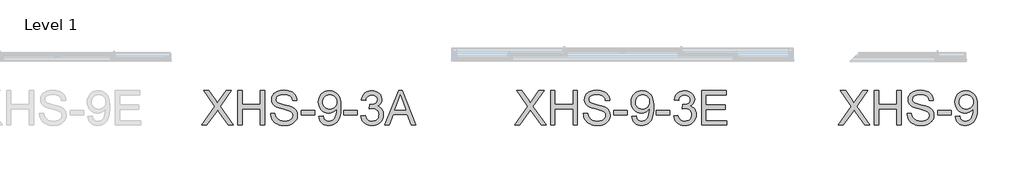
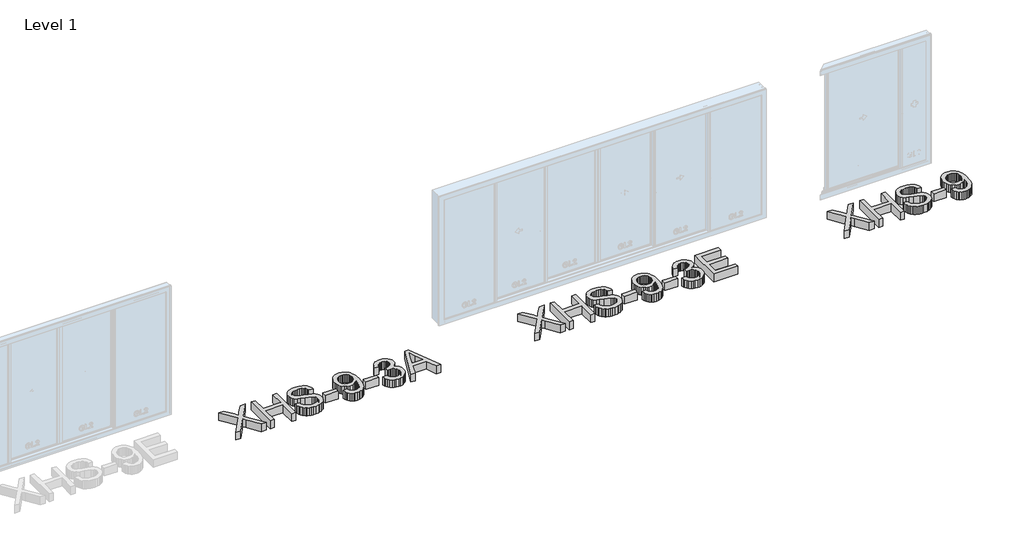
# One storey, part 2 of 2: 3 proxies.
"""IFC4 building model written with IfcOpenShell, lengths in millimetres."""

from ifc_helpers import new_model, si_unit, origin, origin_with_axes, place, context, project, spatial, polyline, outline, extrude, element, save

model = new_model("IFC4")

# Units and contexts
model_context = context("Model", 3, world=origin())
ifc_project = project(units=[si_unit("LENGTHUNIT", "METRE", prefix="MILLI")], contexts=[model_context])

# Site, building, storey
site = spatial("IfcSite", under=ifc_project)
building = spatial("IfcBuilding", under=site)
storey = spatial("IfcBuildingStorey", under=building, Name="Level 1", Elevation=0.0)

# Proxies
placement = place(None, origin())
element("IfcBuildingElementProxy", 1, Name="600mm Arial", ObjectType="600mm Arial", at=placement, inside=storey, context=model_context, shape_type="SweptSolid", body=[
    extrude(outline(polyline([(-296.8674857, -2254.2839532), (-64.6603704, -1925.838908), (-259.1963694, -1651.5460923), (-168.9917042, -1651.5460923), (-59.3628696, -1806.0565303), (-33.1328834, -1845.08881), (-22.4275173, -1866.2420247), (20.8354053, -1804.7321551), (129.2870175, -1651.5460923), (221.1103635, -1651.5460923), (26.4272116, -1926.8689775), (258.7814798, -2254.2839532), (168.4296618, -2254.2839532), (13.4777654, -2036.0563537), (-18.7486974, -1990.8804447), (-53.9182161, -2040.4709377), (-205.0441397, -2254.2839532), (-296.8674857, -2254.2839532)])), origin_with_axes(), (0.0, 0.0, 1.0), 150.0),
    extrude(outline(polyline([(334.1237124, -2254.2839532), (334.1237124, -1651.5460923), (409.465945, -1651.5460923), (409.465945, -1896.4083483), (729.6704336, -1896.4083483), (729.6704336, -1651.5460923), (805.0126662, -1651.5460923), (805.0126662, -2254.2839532), (729.6704336, -2254.2839532), (729.6704336, -1971.750581), (409.465945, -1971.750581), (409.465945, -2254.2839532), (334.1237124, -2254.2839532)])), origin_with_axes(), (0.0, 0.0, 1.0), 150.0),
    extrude(outline(polyline([(908.6082361, -2047.0928136), (983.9504687, -2047.0928136), (992.5956956, -2088.9026023), (1008.2306804, -2122.5086226), (1032.6212566, -2149.1800672), (1067.533258, -2170.1861292), (1110.2075694, -2183.8161571), (1157.885076, -2188.3594997), (1199.8604117, -2184.9198031), (1236.611823, -2174.6007131), (1266.3918705, -2158.2667525), (1287.4531147, -2136.782444), (1299.9794966, -2112.1159562), (1304.1549573, -2086.2354579), (1301.0279603, -2061.0171471), (1291.6469694, -2039.2201389), (1272.5906821, -2020.623704), (1240.4377957, -2005.0071133), (1130.7353848, -1976.2387413), (1058.7224842, -1957.200848), (1012.6452643, -1939.0826598), (975.1396949, -1913.7355903), (948.5602207, -1883.0174437), (932.7229009, -1847.5904076), (927.4437942, -1808.1166695), (929.0762706, -1785.6804663), (933.9736996, -1763.9892242), (942.1360814, -1743.0429431), (953.5634159, -1722.841623), (968.1269444, -1704.2084), (985.6979082, -1687.9664099), (1006.2763073, -1674.1156528), (1029.8621417, -1662.6561286), (1082.8739372, -1647.2602671), (1141.5511154, -1642.1283133), (1205.1211242, -1647.4993904), (1260.7448819, -1663.6126218), (1285.0802758, -1675.6147719), (1306.4358257, -1690.1369136), (1324.8115313, -1707.1790471), (1340.2073928, -1726.7411722), (1352.5038485, -1748.2530718), (1361.5813367, -1771.144529), (1367.4398575, -1795.4155436), (1370.0794108, -1821.0661157), (1294.7371782, -1821.0661157), (1289.6971949, -1797.0250273), (1280.9048152, -1776.1109359), (1268.3600392, -1758.3238415), (1252.0628668, -1743.6637439), (1231.7097954, -1732.2042198), (1206.9973224, -1724.0188454), (1177.9254477, -1719.1076208), (1144.4941714, -1717.4705459), (1109.9960373, -1719.0892267), (1080.5194924, -1723.945269), (1056.0645368, -1732.0386729), (1036.6311704, -1743.3694383), (1021.8239201, -1756.9902692), (1011.2473127, -1771.9538694), (1004.9013483, -1788.2602388), (1002.7860268, -1805.9093775), (1004.285146, -1821.0937069), (1008.7825034, -1834.8616905), (1016.278099, -1847.2133285), (1026.7719329, -1858.1486208), (1043.2898345, -1868.504499), (1069.2990916, -1878.9707418), (1149.7916721, -1900.2343211), (1232.8594266, -1920.4310426), (1283.1121072, -1938.0525902), (1326.0623301, -1965.3862224), (1342.6676037, -1981.4534686), (1356.0263186, -1999.1210014), (1366.2948248, -2018.2968504), (1373.6294721, -2038.8890451), (1379.4971899, -2084.3224715), (1377.8095312, -2107.8899118), (1372.7465553, -2130.7675734), (1364.308262, -2152.9554562), (1352.4946514, -2174.4535603), (1337.5126572, -2194.4295526), (1319.5692129, -2212.0511002), (1298.6643185, -2227.318203), (1274.7979741, -2240.230861), (1248.6645568, -2250.4993672), (1220.9584441, -2257.8340145), (1160.828132, -2263.7017323), (1122.2878944, -2262.1198397), (1087.0126096, -2257.374162), (1055.0022775, -2249.4646991), (1026.2568981, -2238.3914511), (1000.6017275, -2224.1360237), (977.8620217, -2206.6800231), (958.0377806, -2186.023449), (941.1290044, -2162.1663017), (927.5081736, -2135.8811331), (917.5477686, -2107.9404956), (911.2477894, -2078.3443891), (908.6082361, -2047.0928136)])), origin_with_axes(), (0.0, 0.0, 1.0), 150.0),
    extrude(outline(polyline([(1445.4216434, -2075.3461508), (1445.4216434, -2000.0039182), (1680.8661203, -2000.0039182), (1680.8661203, -2075.3461508), (1445.4216434, -2075.3461508)])), origin_with_axes(), (0.0, 0.0, 1.0), 150.0),
    extrude(outline(polyline([(1756.208353, -2103.599488), (1831.5505856, -2094.1817089), (1844.4264554, -2136.9479909), (1853.8994168, -2153.2129736), (1865.3957291, -2166.0658508), (1878.7866337, -2175.8193222), (1893.943372, -2182.7860875), (1929.5543491, -2188.3594997), (1961.5049004, -2184.7726503), (1990.5491839, -2174.0121019), (2014.6822428, -2157.255077), (2031.8991201, -2135.678798), (2044.9405369, -2107.3150962), (2056.5472138, -2070.1958029), (2064.7141941, -2027.5950678), (2067.4365209, -1982.7870408), (2066.9950625, -1968.071761), (2040.8938349, -1999.9303418), (2006.7359917, -2025.1670467), (1966.9863421, -2041.6113718), (1924.1096956, -2047.0928136), (1888.3193759, -2043.7450874), (1855.407733, -2033.7019089), (1825.3747666, -2016.9632782), (1798.2204768, -1993.5291951), (1775.7198943, -1964.6228673), (1759.6480496, -1931.4675025), (1750.0049428, -1894.0631006), (1746.7905739, -1852.4096617), (1750.1612927, -1809.3674683), (1760.273449, -1770.7398588), (1777.1270429, -1736.5268332), (1800.7220744, -1706.7283916), (1829.3938774, -1682.5861357), (1861.4777859, -1665.3416672), (1896.9737999, -1654.9949861), (1935.8819194, -1651.5460923), (1964.6089047, -1653.514261), (1992.0758942, -1659.418767), (2018.2828878, -1669.2596104), (2043.2298856, -1683.0367911), (2066.0845545, -1700.4560036), (2086.0145616, -1721.2229422), (2103.0199069, -1745.337607), (2117.1005902, -1772.799998), (2128.1416486, -1805.1920076), (2136.0281189, -1844.0955286), (2140.760001, -1889.5105609), (2142.3372951, -1941.4371045), (2140.7645996, -1995.9710118), (2136.046513, -2044.6463983), (2128.1830353, -2087.463264), (2117.1741666, -2124.421609), (2103.0612936, -2156.422744), (2085.8858029, -2184.3679801), (2065.6476947, -2208.2573171), (2042.3469688, -2228.0907552), (2016.4526749, -2243.6705577), (1988.4338624, -2254.798988), (1958.2905314, -2261.4760463), (1926.0226819, -2263.7017323), (1892.1867354, -2261.0759746), (1861.6065446, -2253.1987014), (1834.2821094, -2240.0699127), (1810.2134298, -2221.6896085), (1790.0075113, -2198.5544295), (1774.2713589, -2171.1610164), (1763.0049728, -2139.5093693), (1756.208353, -2103.599488)]), holes=[polyline([(2066.9950625, -1850.6438281), (2064.9625145, -1823.6412897), (2058.8648704, -1799.5818072), (2048.7021303, -1778.4653807), (2034.4742941, -1760.2920101), (2016.8803377, -1745.6778979), (1996.6192368, -1735.2392463), (1973.6909915, -1728.9760553), (1948.0956016, -1726.888325), (1921.6816744, -1729.1370037), (1897.7693447, -1735.8830397), (1876.3586126, -1747.1264332), (1857.449478, -1762.8671841), (1841.9984342, -1782.1855874), (1830.9619744, -1804.161938), (1824.3400985, -1828.7962362), (1822.1328065, -1856.0884817), (1824.2205368, -1880.5664299), (1830.4837278, -1902.6439482), (1840.9223794, -1922.3210364), (1855.5364917, -1939.5976946), (1873.7190593, -1953.6645824), (1894.8630769, -1963.7123594), (1918.9685447, -1969.7410256), (1946.0354625, -1971.750581), (1971.2767659, -1969.7410256), (1994.1728215, -1963.7123594), (2014.7236295, -1953.6645824), (2032.9291897, -1939.5976946), (2047.8330091, -1921.9807455), (2058.4785943, -1901.2827848), (2064.8659454, -1877.5038123), (2066.9950625, -1850.6438281)])]), origin_with_axes(), (0.0, 0.0, 1.0), 150.0),
    extrude(outline(polyline([(2189.4261905, -2075.3461508), (2189.4261905, -2000.0039182), (2424.8706674, -2000.0039182), (2424.8706674, -2075.3461508), (2189.4261905, -2075.3461508)])), origin_with_axes(), (0.0, 0.0, 1.0), 150.0),
    extrude(outline(polyline([(2490.7951209, -2094.1817089), (2566.1373535, -2084.7639299), (2583.004743, -2132.1103426), (2594.3768952, -2150.0169988), (2607.708019, -2164.079288), (2623.3016171, -2174.7018806), (2641.4611921, -2182.2894468), (2662.186744, -2186.8419865), (2685.4782728, -2188.3594997), (2712.7751168, -2186.2717694), (2737.1289049, -2180.0085784), (2758.539637, -2169.5699268), (2777.0073132, -2154.9558145), (2791.8789428, -2137.2606906), (2802.5015354, -2117.5790038), (2808.875091, -2095.9107543), (2810.9996095, -2072.255942), (2808.8934851, -2049.7277684), (2802.5751118, -2029.2321427), (2792.0444897, -2010.7690651), (2777.3016188, -1994.3385355), (2759.3121892, -1980.8510618), (2739.0418913, -1971.2171521), (2716.490725, -1965.4368062), (2691.6586903, -1963.5100243), (2667.8567252, -1965.5701634), (2638.8308358, -1971.750581), (2647.2185453, -1896.4083483), (2659.2850747, -1897.2912651), (2704.4241955, -1891.8833998), (2744.7808504, -1875.6598038), (2761.3907225, -1863.3909393), (2773.2549168, -1848.215807), (2780.3734334, -1830.1344069), (2782.7462723, -1809.1467391), (2781.026424, -1792.1092042), (2775.866879, -1776.6075766), (2767.2676374, -1762.6418564), (2755.2286991, -1750.2120435), (2740.4766311, -1740.0079166), (2723.7380003, -1732.7192546), (2684.3010504, -1726.888325), (2663.6444764, -1728.3598529), (2644.7905241, -1732.7744369), (2627.7391936, -1740.1320768), (2612.4904849, -1750.4327727), (2599.4214771, -1763.6765245), (2588.909249, -1779.8633323), (2580.9538009, -1798.993196), (2575.5551326, -1821.0661157), (2500.2129, -1811.6483367), (2509.1432354, -1775.6786746), (2522.3961843, -1743.9948377), (2539.9717466, -1716.5968261), (2561.8699224, -1693.4846398), (2587.4009329, -1675.1365253), (2615.8749993, -1662.0307292), (2647.2921217, -1654.1672516), (2681.6523, -1651.5460923), (2729.0171069, -1656.7148344), (2772.5191528, -1672.2210605), (2809.1969878, -1696.6852132), (2836.0891616, -1728.7277349), (2852.5886691, -1765.6446932), (2858.0885049, -1804.7321551), (2852.8645806, -1841.1524727), (2837.1928076, -1874.1882758), (2811.2939151, -1902.3312485), (2775.3886324, -1924.0730744), (2800.4965786, -1931.927355), (2822.5511042, -1943.1293617), (2841.5522092, -1957.6790946), (2857.4998937, -1975.5765537), (2870.1182462, -1996.3802805), (2879.131355, -2019.6488167), (2884.5392204, -2045.3821623), (2886.3418421, -2073.5803172), (2882.7365986, -2111.8032565), (2871.9208679, -2147.0095635), (2853.8946502, -2179.199238), (2828.6579453, -2208.3722802), (2797.9122075, -2232.5789155), (2763.3588912, -2249.8693693), (2724.9979961, -2260.2436416), (2682.8295224, -2263.7017323), (2644.7169477, -2260.7494793), (2609.9888874, -2251.8927203), (2578.6453414, -2237.1314552), (2550.6863097, -2216.4656841), (2527.2430296, -2191.1094176), (2509.4467381, -2162.2766663), (2497.2974352, -2129.96743), (2490.7951209, -2094.1817089)])), origin_with_axes(), (0.0, 0.0, 1.0), 150.0),
    extrude(outline(polyline([(2910.474901, -2254.2839532), (3151.0697259, -1651.5460923), (3215.2283458, -1651.5460923), (3455.6760179, -2254.2839532), (3376.0663541, -2254.2839532), (3307.1988446, -2065.9283717), (3058.8049215, -2065.9283717), (2989.937412, -2254.2839532), (2910.474901, -2254.2839532)]), holes=[polyline([(3086.4696475, -1990.5861391), (3279.6812714, -1990.5861391), (3225.2347361, -1842.4032714), (3183.0018831, -1726.888325), (3145.4779195, -1829.4538252), (3086.4696475, -1990.5861391)])]), origin_with_axes(), (0.0, 0.0, 1.0), 150.0),
])
element("IfcBuildingElementProxy", 2, Name="600mm Arial", ObjectType="600mm Arial", at=placement, inside=storey, context=model_context, shape_type="SweptSolid", body=[
    extrude(outline(polyline([(5183.1325143, -2254.2839532), (5415.3396296, -1925.838908), (5220.8036306, -1651.5460923), (5311.0082958, -1651.5460923), (5420.6371304, -1806.0565303), (5446.8671166, -1845.08881), (5457.5724827, -1866.2420247), (5500.8354053, -1804.7321551), (5609.2870175, -1651.5460923), (5701.1103635, -1651.5460923), (5506.4272116, -1926.8689775), (5738.7814798, -2254.2839532), (5648.4296618, -2254.2839532), (5493.4777654, -2036.0563537), (5461.2513026, -1990.8804447), (5426.0817839, -2040.4709377), (5274.9558603, -2254.2839532), (5183.1325143, -2254.2839532)])), origin_with_axes(), (0.0, 0.0, 1.0), 150.0),
    extrude(outline(polyline([(5814.1237124, -2254.2839532), (5814.1237124, -1651.5460923), (5889.465945, -1651.5460923), (5889.465945, -1896.4083483), (6209.6704336, -1896.4083483), (6209.6704336, -1651.5460923), (6285.0126662, -1651.5460923), (6285.0126662, -2254.2839532), (6209.6704336, -2254.2839532), (6209.6704336, -1971.750581), (5889.465945, -1971.750581), (5889.465945, -2254.2839532), (5814.1237124, -2254.2839532)])), origin_with_axes(), (0.0, 0.0, 1.0), 150.0),
    extrude(outline(polyline([(6388.6082361, -2047.0928136), (6463.9504687, -2047.0928136), (6472.5956956, -2088.9026023), (6488.2306804, -2122.5086226), (6512.6212566, -2149.1800672), (6547.533258, -2170.1861292), (6590.2075694, -2183.8161571), (6637.885076, -2188.3594997), (6679.8604117, -2184.9198031), (6716.611823, -2174.6007131), (6746.3918705, -2158.2667525), (6767.4531147, -2136.782444), (6779.9794966, -2112.1159562), (6784.1549573, -2086.2354579), (6781.0279603, -2061.0171471), (6771.6469694, -2039.2201389), (6752.5906821, -2020.623704), (6720.4377957, -2005.0071133), (6610.7353848, -1976.2387413), (6538.7224842, -1957.200848), (6492.6452643, -1939.0826598), (6455.1396949, -1913.7355903), (6428.5602207, -1883.0174437), (6412.7229009, -1847.5904076), (6407.4437942, -1808.1166695), (6409.0762706, -1785.6804663), (6413.9736996, -1763.9892242), (6422.1360814, -1743.0429431), (6433.5634159, -1722.841623), (6448.1269444, -1704.2084), (6465.6979082, -1687.9664099), (6486.2763073, -1674.1156528), (6509.8621417, -1662.6561286), (6562.8739372, -1647.2602671), (6621.5511154, -1642.1283133), (6685.1211242, -1647.4993904), (6740.7448819, -1663.6126218), (6765.0802758, -1675.6147719), (6786.4358257, -1690.1369136), (6804.8115313, -1707.1790471), (6820.2073928, -1726.7411722), (6832.5038485, -1748.2530718), (6841.5813367, -1771.144529), (6847.4398575, -1795.4155436), (6850.0794108, -1821.0661157), (6774.7371782, -1821.0661157), (6769.6971949, -1797.0250273), (6760.9048152, -1776.1109359), (6748.3600392, -1758.3238415), (6732.0628668, -1743.6637439), (6711.7097954, -1732.2042198), (6686.9973224, -1724.0188454), (6657.9254477, -1719.1076208), (6624.4941714, -1717.4705459), (6589.9960373, -1719.0892267), (6560.5194924, -1723.945269), (6536.0645368, -1732.0386729), (6516.6311704, -1743.3694383), (6501.8239201, -1756.9902692), (6491.2473127, -1771.9538694), (6484.9013483, -1788.2602388), (6482.7860268, -1805.9093775), (6484.285146, -1821.0937069), (6488.7825034, -1834.8616905), (6496.278099, -1847.2133285), (6506.7719329, -1858.1486208), (6523.2898345, -1868.504499), (6549.2990916, -1878.9707418), (6629.7916721, -1900.2343211), (6712.8594266, -1920.4310426), (6763.1121072, -1938.0525902), (6806.0623301, -1965.3862224), (6822.6676037, -1981.4534686), (6836.0263186, -1999.1210014), (6846.2948248, -2018.2968504), (6853.6294721, -2038.8890451), (6859.4971899, -2084.3224715), (6857.8095312, -2107.8899118), (6852.7465553, -2130.7675734), (6844.308262, -2152.9554562), (6832.4946514, -2174.4535603), (6817.5126572, -2194.4295526), (6799.5692129, -2212.0511002), (6778.6643185, -2227.318203), (6754.7979741, -2240.230861), (6728.6645568, -2250.4993672), (6700.9584441, -2257.8340145), (6640.828132, -2263.7017323), (6602.2878944, -2262.1198397), (6567.0126096, -2257.374162), (6535.0022775, -2249.4646991), (6506.2568981, -2238.3914511), (6480.6017275, -2224.1360237), (6457.8620217, -2206.6800231), (6438.0377806, -2186.023449), (6421.1290044, -2162.1663017), (6407.5081736, -2135.8811331), (6397.5477686, -2107.9404956), (6391.2477894, -2078.3443891), (6388.6082361, -2047.0928136)])), origin_with_axes(), (0.0, 0.0, 1.0), 150.0),
    extrude(outline(polyline([(6925.4216434, -2075.3461508), (6925.4216434, -2000.0039182), (7160.8661203, -2000.0039182), (7160.8661203, -2075.3461508), (6925.4216434, -2075.3461508)])), origin_with_axes(), (0.0, 0.0, 1.0), 150.0),
    extrude(outline(polyline([(7236.208353, -2103.599488), (7311.5505856, -2094.1817089), (7324.4264554, -2136.9479909), (7333.8994168, -2153.2129736), (7345.3957291, -2166.0658508), (7358.7866337, -2175.8193222), (7373.943372, -2182.7860875), (7409.5543491, -2188.3594997), (7441.5049004, -2184.7726503), (7470.5491839, -2174.0121019), (7494.6822428, -2157.255077), (7511.8991201, -2135.678798), (7524.9405369, -2107.3150962), (7536.5472138, -2070.1958029), (7544.7141941, -2027.5950678), (7547.4365209, -1982.7870408), (7546.9950625, -1968.071761), (7520.8938349, -1999.9303418), (7486.7359917, -2025.1670467), (7446.9863421, -2041.6113718), (7404.1096956, -2047.0928136), (7368.3193759, -2043.7450874), (7335.407733, -2033.7019089), (7305.3747666, -2016.9632782), (7278.2204768, -1993.5291951), (7255.7198943, -1964.6228673), (7239.6480496, -1931.4675025), (7230.0049428, -1894.0631006), (7226.7905739, -1852.4096617), (7230.1612927, -1809.3674683), (7240.273449, -1770.7398588), (7257.1270429, -1736.5268332), (7280.7220744, -1706.7283916), (7309.3938774, -1682.5861357), (7341.4777859, -1665.3416672), (7376.9737999, -1654.9949861), (7415.8819194, -1651.5460923), (7444.6089047, -1653.514261), (7472.0758942, -1659.418767), (7498.2828878, -1669.2596104), (7523.2298856, -1683.0367911), (7546.0845545, -1700.4560036), (7566.0145616, -1721.2229422), (7583.0199069, -1745.337607), (7597.1005902, -1772.799998), (7608.1416486, -1805.1920076), (7616.0281189, -1844.0955286), (7620.760001, -1889.5105609), (7622.3372951, -1941.4371045), (7620.7645996, -1995.9710118), (7616.046513, -2044.6463983), (7608.1830353, -2087.463264), (7597.1741666, -2124.421609), (7583.0612936, -2156.422744), (7565.8858029, -2184.3679801), (7545.6476947, -2208.2573171), (7522.3469688, -2228.0907552), (7496.4526749, -2243.6705577), (7468.4338624, -2254.798988), (7438.2905314, -2261.4760463), (7406.0226819, -2263.7017323), (7372.1867354, -2261.0759746), (7341.6065446, -2253.1987014), (7314.2821094, -2240.0699127), (7290.2134298, -2221.6896085), (7270.0075113, -2198.5544295), (7254.2713589, -2171.1610164), (7243.0049728, -2139.5093693), (7236.208353, -2103.599488)]), holes=[polyline([(7546.9950625, -1850.6438281), (7544.9625145, -1823.6412897), (7538.8648704, -1799.5818072), (7528.7021303, -1778.4653807), (7514.4742941, -1760.2920101), (7496.8803377, -1745.6778979), (7476.6192368, -1735.2392463), (7453.6909915, -1728.9760553), (7428.0956016, -1726.888325), (7401.6816744, -1729.1370037), (7377.7693447, -1735.8830397), (7356.3586126, -1747.1264332), (7337.449478, -1762.8671841), (7321.9984342, -1782.1855874), (7310.9619744, -1804.161938), (7304.3400985, -1828.7962362), (7302.1328065, -1856.0884817), (7304.2205368, -1880.5664299), (7310.4837278, -1902.6439482), (7320.9223794, -1922.3210364), (7335.5364917, -1939.5976946), (7353.7190593, -1953.6645824), (7374.8630769, -1963.7123594), (7398.9685447, -1969.7410256), (7426.0354625, -1971.750581), (7451.2767659, -1969.7410256), (7474.1728215, -1963.7123594), (7494.7236295, -1953.6645824), (7512.9291897, -1939.5976946), (7527.8330091, -1921.9807455), (7538.4785943, -1901.2827848), (7544.8659454, -1877.5038123), (7546.9950625, -1850.6438281)])]), origin_with_axes(), (0.0, 0.0, 1.0), 150.0),
    extrude(outline(polyline([(7669.4261905, -2075.3461508), (7669.4261905, -2000.0039182), (7904.8706674, -2000.0039182), (7904.8706674, -2075.3461508), (7669.4261905, -2075.3461508)])), origin_with_axes(), (0.0, 0.0, 1.0), 150.0),
    extrude(outline(polyline([(7970.7951209, -2094.1817089), (8046.1373535, -2084.7639299), (8063.004743, -2132.1103426), (8074.3768952, -2150.0169988), (8087.708019, -2164.079288), (8103.3016171, -2174.7018806), (8121.4611921, -2182.2894468), (8142.186744, -2186.8419865), (8165.4782728, -2188.3594997), (8192.7751168, -2186.2717694), (8217.1289049, -2180.0085784), (8238.539637, -2169.5699268), (8257.0073132, -2154.9558145), (8271.8789428, -2137.2606906), (8282.5015354, -2117.5790038), (8288.875091, -2095.9107543), (8290.9996095, -2072.255942), (8288.8934851, -2049.7277684), (8282.5751118, -2029.2321427), (8272.0444897, -2010.7690651), (8257.3016188, -1994.3385355), (8239.3121892, -1980.8510618), (8219.0418913, -1971.2171521), (8196.490725, -1965.4368062), (8171.6586903, -1963.5100243), (8147.8567252, -1965.5701634), (8118.8308358, -1971.750581), (8127.2185453, -1896.4083483), (8139.2850747, -1897.2912651), (8184.4241955, -1891.8833998), (8224.7808504, -1875.6598038), (8241.3907225, -1863.3909393), (8253.2549168, -1848.215807), (8260.3734334, -1830.1344069), (8262.7462723, -1809.1467391), (8261.026424, -1792.1092042), (8255.866879, -1776.6075766), (8247.2676374, -1762.6418564), (8235.2286991, -1750.2120435), (8220.4766311, -1740.0079166), (8203.7380003, -1732.7192546), (8164.3010504, -1726.888325), (8143.6444764, -1728.3598529), (8124.7905241, -1732.7744369), (8107.7391936, -1740.1320768), (8092.4904849, -1750.4327727), (8079.4214771, -1763.6765245), (8068.909249, -1779.8633323), (8060.9538009, -1798.993196), (8055.5551326, -1821.0661157), (7980.2129, -1811.6483367), (7989.1432354, -1775.6786746), (8002.3961843, -1743.9948377), (8019.9717466, -1716.5968261), (8041.8699224, -1693.4846398), (8067.4009329, -1675.1365253), (8095.8749993, -1662.0307292), (8127.2921217, -1654.1672516), (8161.6523, -1651.5460923), (8209.0171069, -1656.7148344), (8252.5191528, -1672.2210605), (8289.1969878, -1696.6852132), (8316.0891616, -1728.7277349), (8332.5886691, -1765.6446932), (8338.0885049, -1804.7321551), (8332.8645806, -1841.1524727), (8317.1928076, -1874.1882758), (8291.2939151, -1902.3312485), (8255.3886324, -1924.0730744), (8280.4965786, -1931.927355), (8302.5511042, -1943.1293617), (8321.5522092, -1957.6790946), (8337.4998937, -1975.5765537), (8350.1182462, -1996.3802805), (8359.131355, -2019.6488167), (8364.5392204, -2045.3821623), (8366.3418421, -2073.5803172), (8362.7365986, -2111.8032565), (8351.9208679, -2147.0095635), (8333.8946502, -2179.199238), (8308.6579453, -2208.3722802), (8277.9122075, -2232.5789155), (8243.3588912, -2249.8693693), (8204.9979961, -2260.2436416), (8162.8295224, -2263.7017323), (8124.7169477, -2260.7494793), (8089.9888874, -2251.8927203), (8058.6453414, -2237.1314552), (8030.6863097, -2216.4656841), (8007.2430296, -2191.1094176), (7989.4467381, -2162.2766663), (7977.2974352, -2129.96743), (7970.7951209, -2094.1817089)])), origin_with_axes(), (0.0, 0.0, 1.0), 150.0),
    extrude(outline(polyline([(8460.5196329, -2254.2839532), (8460.5196329, -1651.5460923), (8893.7374704, -1651.5460923), (8893.7374704, -1726.888325), (8535.8618655, -1726.888325), (8535.8618655, -1905.8261274), (8874.9019123, -1905.8261274), (8874.9019123, -1981.16836), (8535.8618655, -1981.16836), (8535.8618655, -2178.9417206), (8903.1552495, -2178.9417206), (8903.1552495, -2254.2839532), (8460.5196329, -2254.2839532)])), origin_with_axes(), (0.0, 0.0, 1.0), 150.0),
])
element("IfcBuildingElementProxy", 3, Name="600mm Arial", ObjectType="600mm Arial", at=placement, inside=storey, context=model_context, shape_type="SweptSolid", body=[
    extrude(outline(polyline([(10852.9592706, -2254.2839532), (11085.1663859, -1925.838908), (10890.6303869, -1651.5460924), (10980.8350521, -1651.5460924), (11090.4638866, -1806.0565303), (11116.6938729, -1845.08881), (11127.399239, -1866.2420247), (11170.6621616, -1804.7321551), (11279.1137738, -1651.5460924), (11370.9371198, -1651.5460924), (11176.2539679, -1926.8689775), (11408.6082361, -2254.2839532), (11318.2564181, -2254.2839532), (11163.3045217, -2036.0563537), (11131.0780589, -1990.8804447), (11095.9085402, -2040.4709377), (10944.7826166, -2254.2839532), (10852.9592706, -2254.2839532)])), origin_with_axes(), (0.0, 0.0, 1.0), 150.0),
    extrude(outline(polyline([(11483.9504687, -2254.2839532), (11483.9504687, -1651.5460924), (11559.2927013, -1651.5460924), (11559.2927013, -1896.4083483), (11879.4971899, -1896.4083483), (11879.4971899, -1651.5460924), (11954.8394225, -1651.5460924), (11954.8394225, -2254.2839532), (11879.4971899, -2254.2839532), (11879.4971899, -1971.750581), (11559.2927013, -1971.750581), (11559.2927013, -2254.2839532), (11483.9504687, -2254.2839532)])), origin_with_axes(), (0.0, 0.0, 1.0), 150.0),
    extrude(outline(polyline([(12058.4349923, -2047.0928136), (12133.777225, -2047.0928136), (12142.4224518, -2088.9026023), (12158.0574366, -2122.5086226), (12182.4480129, -2149.1800672), (12217.3600143, -2170.1861292), (12260.0343257, -2183.8161571), (12307.7118323, -2188.3594997), (12349.6871679, -2184.9198031), (12386.4385792, -2174.6007131), (12416.2186268, -2158.2667525), (12437.279871, -2136.782444), (12449.8062529, -2112.1159562), (12453.9817136, -2086.2354579), (12450.8547166, -2061.0171471), (12441.4737257, -2039.2201389), (12422.4174384, -2020.623704), (12390.264552, -2005.0071133), (12280.562141, -1976.2387413), (12208.5492405, -1957.200848), (12162.4720206, -1939.0826598), (12124.9664512, -1913.7355903), (12098.386977, -1883.0174437), (12082.5496571, -1847.5904076), (12077.2705505, -1808.1166695), (12078.9030269, -1785.6804663), (12083.8004559, -1763.9892242), (12091.9628377, -1743.0429431), (12103.3901722, -1722.841623), (12117.9537006, -1704.2084), (12135.5246644, -1687.9664099), (12156.1030635, -1674.1156528), (12179.688898, -1662.6561286), (12232.7006935, -1647.2602671), (12291.3778717, -1642.1283133), (12354.9478805, -1647.4993904), (12410.5716381, -1663.6126218), (12434.9070321, -1675.6147719), (12456.2625819, -1690.1369136), (12474.6382876, -1707.1790471), (12490.0341491, -1726.7411722), (12502.3306048, -1748.2530718), (12511.408093, -1771.144529), (12517.2666138, -1795.4155436), (12519.9061671, -1821.0661157), (12444.5639345, -1821.0661157), (12439.5239512, -1797.0250273), (12430.7315715, -1776.1109359), (12418.1867954, -1758.3238415), (12401.889623, -1743.6637439), (12381.5365517, -1732.2042198), (12356.8240786, -1724.0188454), (12327.752204, -1719.1076208), (12294.3209277, -1717.4705459), (12259.8227936, -1719.0892267), (12230.3462487, -1723.945269), (12205.8912931, -1732.0386729), (12186.4579267, -1743.3694383), (12171.6506764, -1756.9902692), (12161.074069, -1771.9538694), (12154.7281046, -1788.2602388), (12152.6127831, -1805.9093775), (12154.1119022, -1821.0937069), (12158.6092596, -1834.8616905), (12166.1048553, -1847.2133285), (12176.5986892, -1858.1486208), (12193.1165908, -1868.504499), (12219.1258478, -1878.9707418), (12299.6184284, -1900.2343211), (12382.6861829, -1920.4310426), (12432.9388634, -1938.0525902), (12475.8890864, -1965.3862224), (12492.4943599, -1981.4534686), (12505.8530749, -1999.1210014), (12516.1215811, -2018.2968504), (12523.4562284, -2038.8890451), (12529.3239462, -2084.3224715), (12527.6362875, -2107.8899118), (12522.5733116, -2130.7675734), (12514.1350183, -2152.9554562), (12502.3214077, -2174.4535603), (12487.3394135, -2194.4295526), (12469.3959692, -2212.0511002), (12448.4910748, -2227.318203), (12424.6247303, -2240.230861), (12398.4913131, -2250.4993672), (12370.7852004, -2257.8340145), (12310.6548882, -2263.7017323), (12272.1146507, -2262.1198397), (12236.8393659, -2257.374162), (12204.8290338, -2249.4646991), (12176.0836544, -2238.3914511), (12150.4284838, -2224.1360237), (12127.6887779, -2206.6800231), (12107.8645369, -2186.023449), (12090.9557607, -2162.1663017), (12077.3349299, -2135.8811331), (12067.3745248, -2107.9404956), (12061.0745457, -2078.3443891), (12058.4349923, -2047.0928136)])), origin_with_axes(), (0.0, 0.0, 1.0), 150.0),
    extrude(outline(polyline([(12595.2483997, -2075.3461508), (12595.2483997, -2000.0039182), (12830.6928766, -2000.0039182), (12830.6928766, -2075.3461508), (12595.2483997, -2075.3461508)])), origin_with_axes(), (0.0, 0.0, 1.0), 150.0),
    extrude(outline(polyline([(12906.0351092, -2103.599488), (12981.3773418, -2094.1817089), (12994.2532117, -2136.9479909), (13003.7261731, -2153.2129736), (13015.2224854, -2166.0658508), (13028.61339, -2175.8193222), (13043.7701282, -2182.7860875), (13079.3811054, -2188.3594997), (13111.3316566, -2184.7726503), (13140.3759402, -2174.0121019), (13164.508999, -2157.255077), (13181.7258764, -2135.678798), (13194.7672932, -2107.3150962), (13206.3739701, -2070.1958029), (13214.5409504, -2027.5950678), (13217.2632772, -1982.7870408), (13216.8218188, -1968.071761), (13190.7205912, -1999.9303418), (13156.562748, -2025.1670467), (13116.8130984, -2041.6113718), (13073.9364518, -2047.0928136), (13038.1461322, -2043.7450874), (13005.2344892, -2033.7019089), (12975.2015229, -2016.9632782), (12948.0472331, -1993.5291951), (12925.5466506, -1964.6228673), (12909.4748059, -1931.4675025), (12899.8316991, -1894.0631006), (12896.6173302, -1852.4096617), (12899.9880489, -1809.3674683), (12910.1002053, -1770.7398588), (12926.9537992, -1736.5268332), (12950.5488307, -1706.7283916), (12979.2206337, -1682.5861357), (13011.3045422, -1665.3416672), (13046.8005562, -1654.9949861), (13085.7086757, -1651.5460924), (13114.435661, -1653.514261), (13141.9026504, -1659.418767), (13168.1096441, -1669.2596104), (13193.0566419, -1683.0367911), (13215.9113108, -1700.4560036), (13235.8413179, -1721.2229422), (13252.8466631, -1745.337607), (13266.9273465, -1772.799998), (13277.9684049, -1805.1920076), (13285.8548752, -1844.0955286), (13290.5867573, -1889.5105609), (13292.1640514, -1941.4371045), (13290.5913558, -1995.9710118), (13285.8732693, -2044.6463983), (13278.0097916, -2087.463264), (13267.0009229, -2124.421609), (13252.8880499, -2156.422744), (13235.7125592, -2184.3679801), (13215.474451, -2208.2573171), (13192.1737251, -2228.0907552), (13166.2794312, -2243.6705577), (13138.2606187, -2254.798988), (13108.1172877, -2261.4760463), (13075.8494382, -2263.7017323), (13042.0134917, -2261.0759746), (13011.4333009, -2253.1987014), (12984.1088657, -2240.0699127), (12960.0401861, -2221.6896085), (12939.8342675, -2198.5544295), (12924.0981152, -2171.1610164), (12912.8317291, -2139.5093693), (12906.0351092, -2103.599488)]), holes=[polyline([(13216.8218188, -1850.6438281), (13214.7892707, -1823.6412897), (13208.6916267, -1799.5818072), (13198.5288866, -1778.4653807), (13184.3010504, -1760.2920101), (13166.707094, -1745.6778979), (13146.4459931, -1735.2392463), (13123.5177477, -1728.9760553), (13097.9223579, -1726.888325), (13071.5084307, -1729.1370037), (13047.596101, -1735.8830397), (13026.1853689, -1747.1264332), (13007.2762343, -1762.8671841), (12991.8251905, -1782.1855874), (12980.7887307, -1804.161938), (12974.1668547, -1828.7962362), (12971.9595628, -1856.0884817), (12974.0472931, -1880.5664299), (12980.3104841, -1902.6439482), (12990.7491357, -1922.3210364), (13005.3632479, -1939.5976946), (13023.5458155, -1953.6645824), (13044.6898332, -1963.7123594), (13068.795301, -1969.7410256), (13095.8622187, -1971.750581), (13121.1035221, -1969.7410256), (13143.9995778, -1963.7123594), (13164.5503858, -1953.6645824), (13182.755946, -1939.5976946), (13197.6597653, -1921.9807455), (13208.3053506, -1901.2827848), (13214.6927017, -1877.5038123), (13216.8218188, -1850.6438281)])]), origin_with_axes(), (0.0, 0.0, 1.0), 150.0),
])

save(model, "model.ifc")
